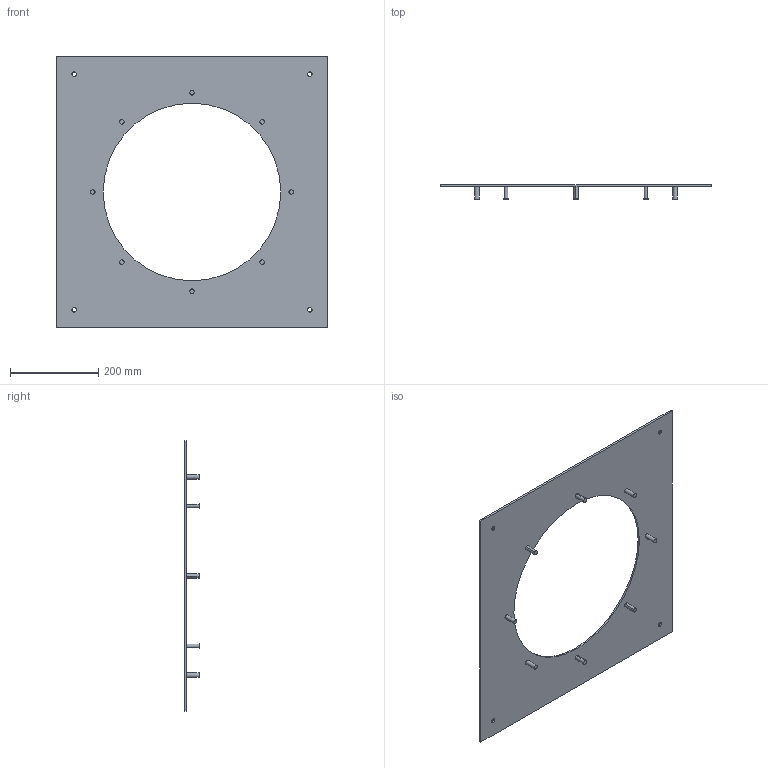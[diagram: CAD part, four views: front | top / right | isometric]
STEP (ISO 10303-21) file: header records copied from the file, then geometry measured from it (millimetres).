
FILE_DESCRIPTION(('STEP AP214'),'1');
FILE_NAME('accessory_5136824900.stp','2017-10-10T13:28:56',('TraceParts'),('TraceParts S.A.'),'Spatial InterOp 3D',' ',' ');
FILE_SCHEMA(('automotive_design'));
Length unit declared in the file: millimetre
Products named in the file (1): accessory_5136824900
Bounding box: 614 x 32 x 614 mm (x, y, z)
Volume: 1014097.4 mm3; surface area: 520680.3 mm2
Topology: 1 solids, 1 shells, 40 faces, 90 edges, 60 vertices
Faces by surface type: cylinder 26, plane 14
Entity records: 1502 total; most frequent: DIRECTION 224, CARTESIAN_POINT 191, ORIENTED_EDGE 180, AXIS2_PLACEMENT_3D 93, EDGE_CURVE 90, VERTEX_POINT 60, EDGE_LOOP 58, CIRCLE 52
